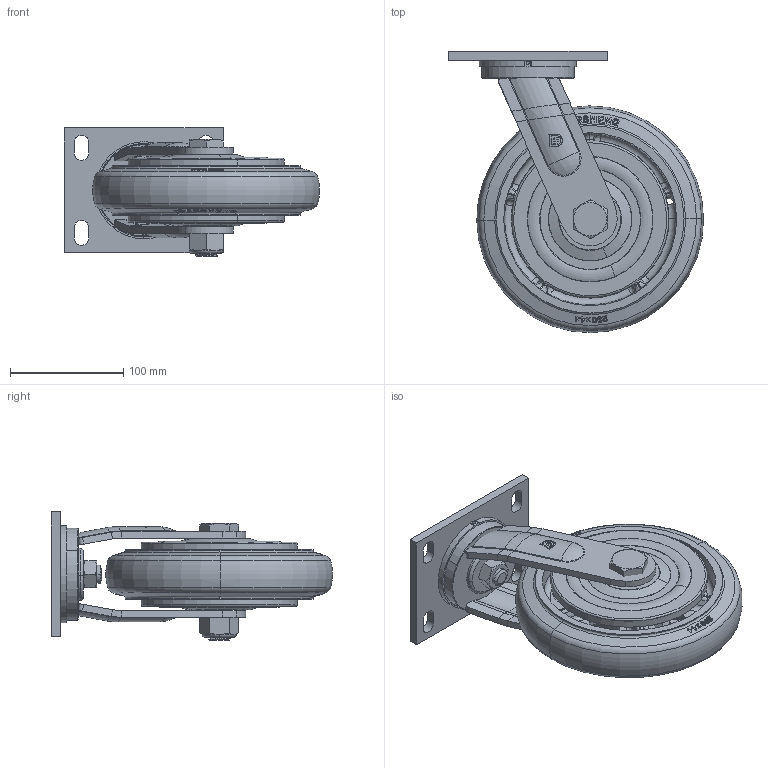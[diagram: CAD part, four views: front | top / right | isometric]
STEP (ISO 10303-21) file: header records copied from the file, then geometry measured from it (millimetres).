
FILE_DESCRIPTION((''),'2;1');
FILE_NAME('PRT0002','2025-04-30T13:44:37',('Administrator'),(''),'CREO PARAMETRIC BY PTC INC, 2022124','CREO PARAMETRIC BY PTC INC, 2022124','');
FILE_SCHEMA(('AP203_CONFIGURATION_CONTROLLED_3D_DESIGN_OF_MECHANICAL_PARTS_AND_ASSEMBLIES_MIM_LF { 1 0 10303 403 2 1 2 }'));
Products named in the file (1): PRT0002
Bounding box: 225 x 248 x 113 mm (x, y, z)
Surface area: 244575 mm2 (no closed solid volume)
Topology: 0 solids, 62 shells, 545 faces, 2018 edges, 1519 vertices
Faces by surface type: bspline 203, plane 125, cylinder 94, torus 81, cone 42
Entity records: 43441 total; most frequent: CARTESIAN_POINT 25327, ORIENTED_EDGE 3096, EDGE_CURVE 2018, DIRECTION 2013, VERTEX_POINT 1519, B_SPLINE_CURVE_WITH_KNOTS 1112, AXIS2_PLACEMENT_3D 752, EDGE_LOOP 622
